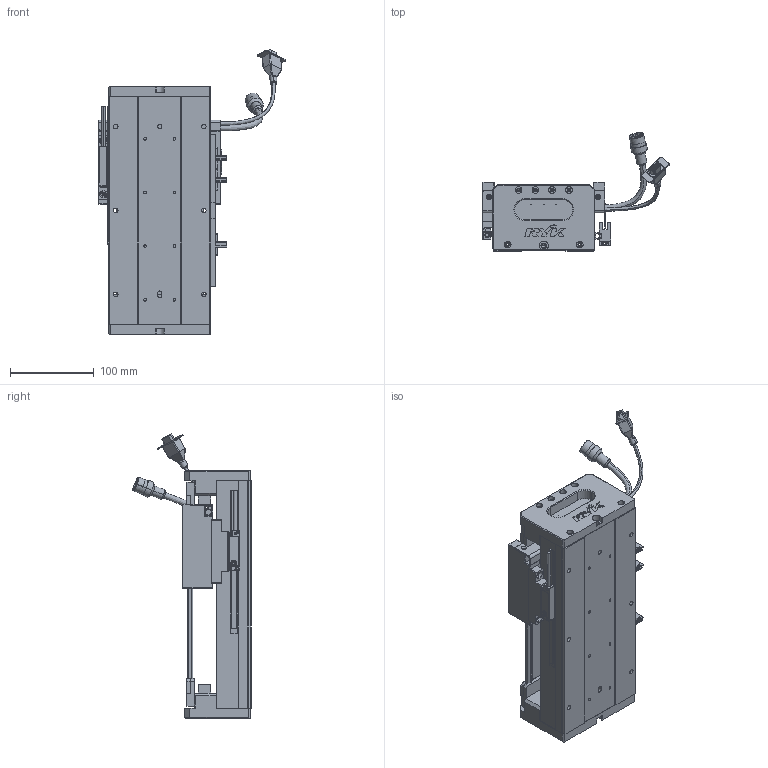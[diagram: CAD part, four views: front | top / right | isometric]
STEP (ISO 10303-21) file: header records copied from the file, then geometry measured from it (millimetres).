
FILE_DESCRIPTION (( 'STEP AP203' ), '1' );
FILE_NAME ('Z1-RY120D-1-L500-B-K.SLDASM_0100.step', '2021-05-17T03:44:10', ( '盈信电脑' ), ( '东莞市道滘镇水果街19号' ), 'SwSTEP 2.0', 'SolidWorks 2016', '' );
FILE_SCHEMA (( 'CONFIG_CONTROL_DESIGN' ));
Length unit declared in the file: millimetre
Products named in the file (37): SCREW-M1.7-1; SCREW-M1.6; LABEL; SCREW-M1.6-3; SCALE-Part-2; RY100FB-遵嫖萇覜茼え; LABEL-Part-1; 榋妏寠巭燃_暯_M2_2; 140雄赽晤鎢ん堤盄; 080黍杅芛假蚾釱21遴; COVER-Part-1; SCREW-M1.6-2; SEAL; COVER; Z1-RY120D-1-L500-B-K.SLDASM_0100; Z-RY120D詩湍狟揤裔; PSLH080_PSLF2; Z-RY120D詩湍奻揤裔; SCREW-M1.7; PBU_SHEET; SEAL-Part-1; 140蚥薯蝶輸; HARNESS; 覜茼ん672; 672嫖萇羲壽假蚾釱; Z-120詩湍傷裔啣; HOLDER0; Z1-RY120铝滑块（21款）; Z1-RY120-L500詩湍100mm遵_0100; SHIELDPLATE; 120-Z-臏賑輸盄裔(21遴); SCALE-Part-1; Z1-RY120-500-倰第菁釱_0100; HARNESS-Part-1; SCREW-M1.6-1; SCALE; HARNESS-Part-2
Assembly tree (43 placements, depth 4):
  Z1-RY120D-1-L500-B-K.SLDASM_0100
    Z1-RY120-500-倰第菁釱_0100
    覜茼ん672  x3
    672嫖萇羲壽假蚾釱  x2
    Z1-RY120铝滑块（21款）
    PSLH080_PSLF2
      SCALE
        SCALE-Part-1
        SCALE-Part-2
      HARNESS
        HARNESS-Part-1
        HARNESS-Part-2
      LABEL
        LABEL-Part-1
      COVER
        COVER-Part-1
      SEAL
        SEAL-Part-1
      榋妏寠巭燃_暯_M2_2
      SHIELDPLATE
      SCREW-M1.7
      SCREW-M1.7-1
      PBU_SHEET
      SCREW-M1.6
      SCREW-M1.6-1
      SCREW-M1.6-2
      SCREW-M1.6-3
      HOLDER0
    080黍杅芛假蚾釱21遴
    120-Z-臏賑輸盄裔(21遴)
    140雄赽晤鎢ん堤盄
    140蚥薯蝶輸  x2
    RY100FB-遵嫖萇覜茼え
    Z-120詩湍傷裔啣  x2
    Z-RY120D詩湍奻揤裔  x2
    Z-RY120D詩湍狟揤裔  x2
    Z1-RY120-L500詩湍100mm遵_0100
Bounding box: 222.88 x 140.94 x 339 mm (x, y, z)
Volume: 1241261 mm3; surface area: 413366.9 mm2
Topology: 38 solids, 38 shells, 2327 faces, 6056 edges, 3836 vertices
Faces by surface type: plane 1055, cylinder 938, cone 212, torus 69, bspline 53
Entity records: 64161 total; most frequent: CARTESIAN_POINT 15224, DIRECTION 9490, ORIENTED_EDGE 9216, EDGE_CURVE 4608, AXIS2_PLACEMENT_3D 3418, VERTEX_POINT 2956, LINE 2654, VECTOR 2654
